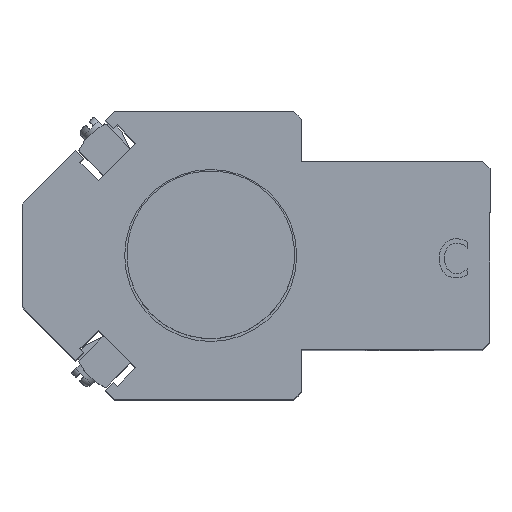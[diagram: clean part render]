
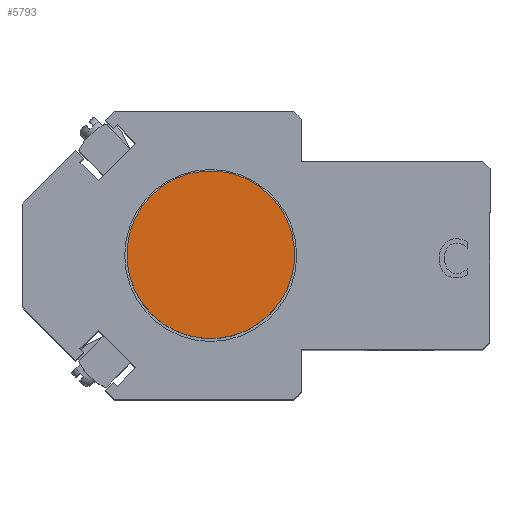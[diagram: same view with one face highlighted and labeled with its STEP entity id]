
A CAD part, top view. The second image highlights one B-rep face of the part: STEP entity #5793.
In plain terms, the highlighted planar face has unit normal (0, 0, 1) as drawn and (1, 0, 0) by its records, which use the part's own axes.
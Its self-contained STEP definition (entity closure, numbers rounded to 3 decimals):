
#519=PLANE('',#6600);
#811=FACE_OUTER_BOUND('',#1155,.T.);
#1155=EDGE_LOOP('',(#5373,#5374));
#2411=CIRCLE('',#6601,11.113);
#2412=CIRCLE('',#6602,11.113);
#2968=VERTEX_POINT('',#10208);
#2969=VERTEX_POINT('',#10209);
#3777=EDGE_CURVE('',#2968,#2969,#2411,.T.);
#3778=EDGE_CURVE('',#2969,#2968,#2412,.T.);
#5373=ORIENTED_EDGE('',*,*,#3777,.F.);
#5374=ORIENTED_EDGE('',*,*,#3778,.F.);
#5793=ADVANCED_FACE('',(#811),#519,.T.);
#6600=AXIS2_PLACEMENT_3D('',#10207,#8181,#8182);
#6601=AXIS2_PLACEMENT_3D('',#10210,#8183,#8184);
#6602=AXIS2_PLACEMENT_3D('',#10211,#8185,#8186);
#8181=DIRECTION('center_axis',(1.,0.,0.));
#8182=DIRECTION('ref_axis',(0.,0.,-1.));
#8183=DIRECTION('center_axis',(-1.,0.,0.));
#8184=DIRECTION('ref_axis',(0.,-1.,0.));
#8185=DIRECTION('center_axis',(-1.,0.,0.));
#8186=DIRECTION('ref_axis',(0.,-1.,0.));
#10207=CARTESIAN_POINT('Origin',(13.,-5.556,0.));
#10208=CARTESIAN_POINT('',(13.,-11.113,0.));
#10209=CARTESIAN_POINT('',(13.,11.113,0.));
#10210=CARTESIAN_POINT('Origin',(13.,0.,0.));
#10211=CARTESIAN_POINT('Origin',(13.,0.,0.));
